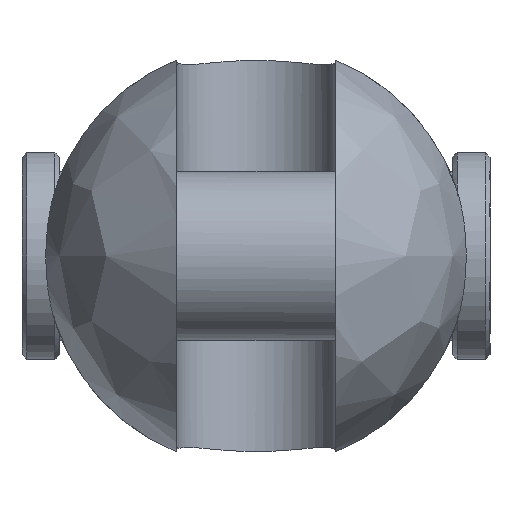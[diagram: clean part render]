
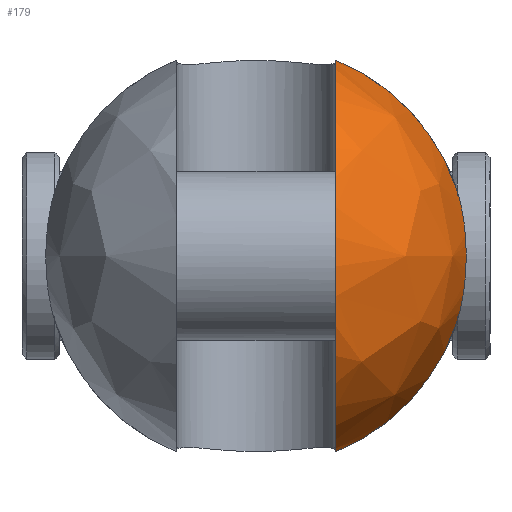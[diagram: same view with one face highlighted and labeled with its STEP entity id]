
A CAD part, left-side view. The second image highlights one B-rep face of the part: STEP entity #179.
In plain terms, the highlighted free-form (B-spline) face has degree [2, 2] with [9, 5] control points.
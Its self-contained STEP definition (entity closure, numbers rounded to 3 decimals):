
#179=ADVANCED_FACE('',(#320),#2412,.T.);
#320=FACE_OUTER_BOUND('',#481,.T.);
#481=EDGE_LOOP('',(#1192,#1193,#1194,#1195));
#1192=ORIENTED_EDGE('',*,*,#1576,.T.);
#1193=ORIENTED_EDGE('',*,*,#1598,.F.);
#1194=ORIENTED_EDGE('',*,*,#1608,.T.);
#1195=ORIENTED_EDGE('',*,*,#1592,.F.);
#1576=EDGE_CURVE('',#2244,#2243,#1979,.T.);
#1592=EDGE_CURVE('',#2244,#2256,#1989,.T.);
#1598=EDGE_CURVE('',#2263,#2243,#1990,.T.);
#1608=EDGE_CURVE('',#2263,#2256,#1782,.T.);
#1782=B_SPLINE_CURVE_WITH_KNOTS('',3,(#6046,#6047,#6048,#6049,#6050,#6051,
#6052,#6053,#6054,#6055,#6056,#6057,#6058,#6059),.UNSPECIFIED.,.F.,.F.,
(4,2,2,2,2,2,4),(0.,0.959,4.487,8.014,
11.541,15.068,16.028),.UNSPECIFIED.);
#1979=(
BOUNDED_CURVE()
B_SPLINE_CURVE(2,(#5894,#5895,#5896,#5897,#5898),.UNSPECIFIED.,.F.,.F.)
B_SPLINE_CURVE_WITH_KNOTS((3,2,3),(-65.448,-32.724,
0.),.UNSPECIFIED.)
CURVE()
GEOMETRIC_REPRESENTATION_ITEM()
RATIONAL_B_SPLINE_CURVE((1.,0.707,1.,0.707,1.))
REPRESENTATION_ITEM('')
);
#1989=(
BOUNDED_CURVE()
B_SPLINE_CURVE(2,(#5972,#5973,#5974),.UNSPECIFIED.,.F.,.F.)
B_SPLINE_CURVE_WITH_KNOTS((3,3),(0.,19.159),.UNSPECIFIED.)
CURVE()
GEOMETRIC_REPRESENTATION_ITEM()
RATIONAL_B_SPLINE_CURVE((1.,0.911,1.))
REPRESENTATION_ITEM('')
);
#1990=(
BOUNDED_CURVE()
B_SPLINE_CURVE(2,(#6001,#6002,#6003),.UNSPECIFIED.,.F.,.F.)
B_SPLINE_CURVE_WITH_KNOTS((3,3),(0.,19.159),.UNSPECIFIED.)
CURVE()
GEOMETRIC_REPRESENTATION_ITEM()
RATIONAL_B_SPLINE_CURVE((1.,0.911,1.))
REPRESENTATION_ITEM('')
);
#2243=VERTEX_POINT('',#5762);
#2244=VERTEX_POINT('',#5763);
#2256=VERTEX_POINT('',#5775);
#2263=VERTEX_POINT('',#5782);
#2412=(
BOUNDED_SURFACE()
B_SPLINE_SURFACE(2,2,((#5476,#5477,#5478,#5479,#5480),(#5481,#5482,#5483,
#5484,#5485),(#5486,#5487,#5488,#5489,#5490),(#5491,#5492,#5493,#5494,#5495),
(#5496,#5497,#5498,#5499,#5500),(#5501,#5502,#5503,#5504,#5505),(#5506,
#5507,#5508,#5509,#5510),(#5511,#5512,#5513,#5514,#5515),(#5516,#5517,#5518,
#5519,#5520)),.UNSPECIFIED.,.T.,.F.,.F.)
B_SPLINE_SURFACE_WITH_KNOTS((3,2,2,2,3),(3,2,3),(0.,35.343,70.686,
106.029,141.372),(0.,35.343,70.686),
 .UNSPECIFIED.)
GEOMETRIC_REPRESENTATION_ITEM()
RATIONAL_B_SPLINE_SURFACE(((1.,0.707,1.,0.707,1.),
(0.707,0.5,0.707,0.5,0.707),(1.,0.707,
1.,0.707,1.),(0.707,0.5,0.707,0.5,0.707),
(1.,0.707,1.,0.707,1.),(0.707,0.5,0.707,
0.5,0.707),(1.,0.707,1.,0.707,1.),(0.707,
0.5,0.707,0.5,0.707),(1.,0.707,1.,0.707,
1.)))
REPRESENTATION_ITEM('')
SURFACE()
);
#5476=CARTESIAN_POINT('',(-32.,0.,0.));
#5477=CARTESIAN_POINT('',(-32.,22.5,0.));
#5478=CARTESIAN_POINT('',(-9.5,22.5,0.));
#5479=CARTESIAN_POINT('',(13.,22.5,0.));
#5480=CARTESIAN_POINT('',(13.,0.,0.));
#5481=CARTESIAN_POINT('',(-32.,0.,0.));
#5482=CARTESIAN_POINT('',(-32.,22.5,22.5));
#5483=CARTESIAN_POINT('',(-9.5,22.5,22.5));
#5484=CARTESIAN_POINT('',(13.,22.5,22.5));
#5485=CARTESIAN_POINT('',(13.,0.,0.));
#5486=CARTESIAN_POINT('',(-32.,0.,0.));
#5487=CARTESIAN_POINT('',(-32.,0.,22.5));
#5488=CARTESIAN_POINT('',(-9.5,0.,22.5));
#5489=CARTESIAN_POINT('',(13.,0.,22.5));
#5490=CARTESIAN_POINT('',(13.,0.,0.));
#5491=CARTESIAN_POINT('',(-32.,0.,0.));
#5492=CARTESIAN_POINT('',(-32.,-22.5,22.5));
#5493=CARTESIAN_POINT('',(-9.5,-22.5,22.5));
#5494=CARTESIAN_POINT('',(13.,-22.5,22.5));
#5495=CARTESIAN_POINT('',(13.,0.,0.));
#5496=CARTESIAN_POINT('',(-32.,0.,0.));
#5497=CARTESIAN_POINT('',(-32.,-22.5,0.));
#5498=CARTESIAN_POINT('',(-9.5,-22.5,0.));
#5499=CARTESIAN_POINT('',(13.,-22.5,0.));
#5500=CARTESIAN_POINT('',(13.,0.,0.));
#5501=CARTESIAN_POINT('',(-32.,0.,0.));
#5502=CARTESIAN_POINT('',(-32.,-22.5,-22.5));
#5503=CARTESIAN_POINT('',(-9.5,-22.5,-22.5));
#5504=CARTESIAN_POINT('',(13.,-22.5,-22.5));
#5505=CARTESIAN_POINT('',(13.,0.,0.));
#5506=CARTESIAN_POINT('',(-32.,0.,0.));
#5507=CARTESIAN_POINT('',(-32.,0.,-22.5));
#5508=CARTESIAN_POINT('',(-9.5,0.,-22.5));
#5509=CARTESIAN_POINT('',(13.,0.,-22.5));
#5510=CARTESIAN_POINT('',(13.,0.,0.));
#5511=CARTESIAN_POINT('',(-32.,0.,0.));
#5512=CARTESIAN_POINT('',(-32.,22.5,-22.5));
#5513=CARTESIAN_POINT('',(-9.5,22.5,-22.5));
#5514=CARTESIAN_POINT('',(13.,22.5,-22.5));
#5515=CARTESIAN_POINT('',(13.,0.,0.));
#5516=CARTESIAN_POINT('',(-32.,0.,0.));
#5517=CARTESIAN_POINT('',(-32.,22.5,0.));
#5518=CARTESIAN_POINT('',(-9.5,22.5,0.));
#5519=CARTESIAN_POINT('',(13.,22.5,0.));
#5520=CARTESIAN_POINT('',(13.,0.,0.));
#5762=CARTESIAN_POINT('',(-9.5,-8.5,-20.833));
#5763=CARTESIAN_POINT('',(-9.5,-8.5,20.833));
#5775=CARTESIAN_POINT('',(-9.5,-21.272,7.331));
#5782=CARTESIAN_POINT('',(-9.5,-21.272,-7.331));
#5894=CARTESIAN_POINT('',(-9.5,-8.5,20.833));
#5895=CARTESIAN_POINT('',(-30.333,-8.5,20.833));
#5896=CARTESIAN_POINT('',(-30.333,-8.5,0.));
#5897=CARTESIAN_POINT('',(-30.333,-8.5,-20.833));
#5898=CARTESIAN_POINT('',(-9.5,-8.5,-20.833));
#5972=CARTESIAN_POINT('',(-9.5,-8.5,20.833));
#5973=CARTESIAN_POINT('',(-9.5,-17.947,16.978));
#5974=CARTESIAN_POINT('',(-9.5,-21.272,7.331));
#6001=CARTESIAN_POINT('',(-9.5,-21.272,-7.331));
#6002=CARTESIAN_POINT('',(-9.5,-17.947,-16.978));
#6003=CARTESIAN_POINT('',(-9.5,-8.5,-20.833));
#6046=CARTESIAN_POINT('',(-9.5,-21.272,-7.331));
#6047=CARTESIAN_POINT('',(-9.685,-21.355,-7.091));
#6048=CARTESIAN_POINT('',(-9.86,-21.432,-6.846));
#6049=CARTESIAN_POINT('',(-10.62,-21.768,-5.692));
#6050=CARTESIAN_POINT('',(-11.143,-21.994,-4.611));
#6051=CARTESIAN_POINT('',(-11.833,-22.29,-2.325));
#6052=CARTESIAN_POINT('',(-12.,-22.361,-1.119));
#6053=CARTESIAN_POINT('',(-12.,-22.361,1.119));
#6054=CARTESIAN_POINT('',(-11.833,-22.29,2.325));
#6055=CARTESIAN_POINT('',(-11.143,-21.994,4.611));
#6056=CARTESIAN_POINT('',(-10.62,-21.768,5.692));
#6057=CARTESIAN_POINT('',(-9.86,-21.432,6.846));
#6058=CARTESIAN_POINT('',(-9.685,-21.355,7.091));
#6059=CARTESIAN_POINT('',(-9.5,-21.272,7.331));
